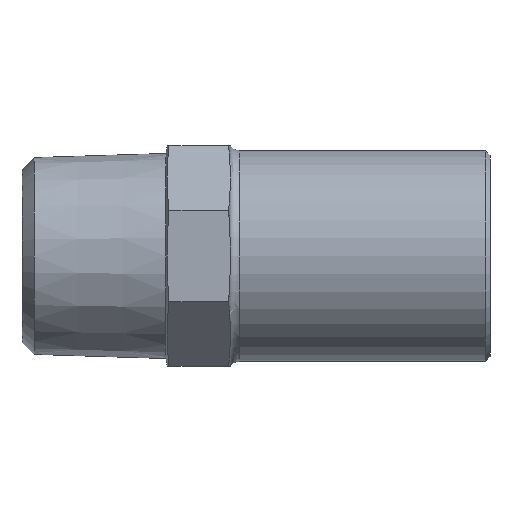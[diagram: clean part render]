
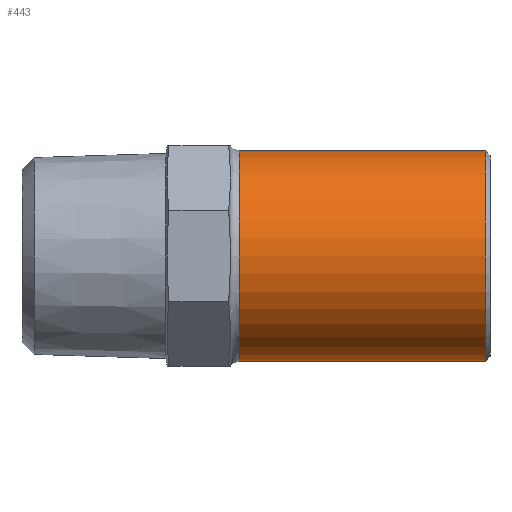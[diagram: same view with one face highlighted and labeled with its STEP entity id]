
A CAD part, left-side view. The second image highlights one B-rep face of the part: STEP entity #443.
In plain terms, the highlighted cylindrical face has radius 11 mm (diameter 22 mm), a partial arc.
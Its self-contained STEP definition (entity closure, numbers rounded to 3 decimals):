
#21 = CARTESIAN_POINT ( 'NONE',  ( 0., 0.5, 0. ) ) ;
#32 = CARTESIAN_POINT ( 'NONE',  ( 0., -17.811, 11. ) ) ;
#79 = DIRECTION ( 'NONE',  ( 0., -1., 0. ) ) ;
#82 = CARTESIAN_POINT ( 'NONE',  ( 0., -17.811, 0. ) ) ;
#87 = DIRECTION ( 'NONE',  ( 0., 0., -1. ) ) ;
#95 = DIRECTION ( 'NONE',  ( 0., -1., 0. ) ) ;
#123 = LINE ( 'NONE', #32, #364 ) ;
#158 = DIRECTION ( 'NONE',  ( 0., -1., 0. ) ) ;
#166 = AXIS2_PLACEMENT_3D ( 'NONE', #21, #95, #633 ) ;
#172 = LINE ( 'NONE', #674, #802 ) ;
#196 = CYLINDRICAL_SURFACE ( 'NONE', #269, 11. ) ;
#205 = VERTEX_POINT ( 'NONE', #479 ) ;
#269 = AXIS2_PLACEMENT_3D ( 'NONE', #82, #1084, #87 ) ;
#314 = AXIS2_PLACEMENT_3D ( 'NONE', #881, #874, #888 ) ;
#330 = EDGE_CURVE ( 'NONE', #205, #784, #172, .T. ) ;
#357 = CARTESIAN_POINT ( 'NONE',  ( 0., 0.5, -11. ) ) ;
#364 = VECTOR ( 'NONE', #158, 1000. ) ;
#376 = EDGE_CURVE ( 'NONE', #927, #427, #123, .T. ) ;
#427 = VERTEX_POINT ( 'NONE', #1025 ) ;
#443 = ADVANCED_FACE ( 'NONE', ( #1163 ), #196, .T. ) ;
#444 = EDGE_CURVE ( 'NONE', #427, #784, #1190, .T. ) ;
#479 = CARTESIAN_POINT ( 'NONE',  ( 0., 26.161, -11. ) ) ;
#487 = EDGE_LOOP ( 'NONE', ( #760, #952, #805, #1318 ) ) ;
#633 = DIRECTION ( 'NONE',  ( 0., 0., -1. ) ) ;
#674 = CARTESIAN_POINT ( 'NONE',  ( 0., -17.811, -11. ) ) ;
#720 = EDGE_CURVE ( 'NONE', #927, #205, #1149, .T. ) ;
#760 = ORIENTED_EDGE ( 'NONE', *, *, #376, .F. ) ;
#784 = VERTEX_POINT ( 'NONE', #357 ) ;
#802 = VECTOR ( 'NONE', #79, 1000. ) ;
#805 = ORIENTED_EDGE ( 'NONE', *, *, #330, .T. ) ;
#874 = DIRECTION ( 'NONE',  ( 0., -1., 0. ) ) ;
#881 = CARTESIAN_POINT ( 'NONE',  ( 0., 26.161, 0. ) ) ;
#888 = DIRECTION ( 'NONE',  ( 0., 0., -1. ) ) ;
#927 = VERTEX_POINT ( 'NONE', #1061 ) ;
#952 = ORIENTED_EDGE ( 'NONE', *, *, #720, .T. ) ;
#1025 = CARTESIAN_POINT ( 'NONE',  ( 0., 0.5, 11. ) ) ;
#1061 = CARTESIAN_POINT ( 'NONE',  ( 0., 26.161, 11. ) ) ;
#1084 = DIRECTION ( 'NONE',  ( 0., -1., 0. ) ) ;
#1149 = CIRCLE ( 'NONE', #314, 11. ) ;
#1163 = FACE_OUTER_BOUND ( 'NONE', #487, .T. ) ;
#1190 = CIRCLE ( 'NONE', #166, 11. ) ;
#1318 = ORIENTED_EDGE ( 'NONE', *, *, #444, .F. ) ;
